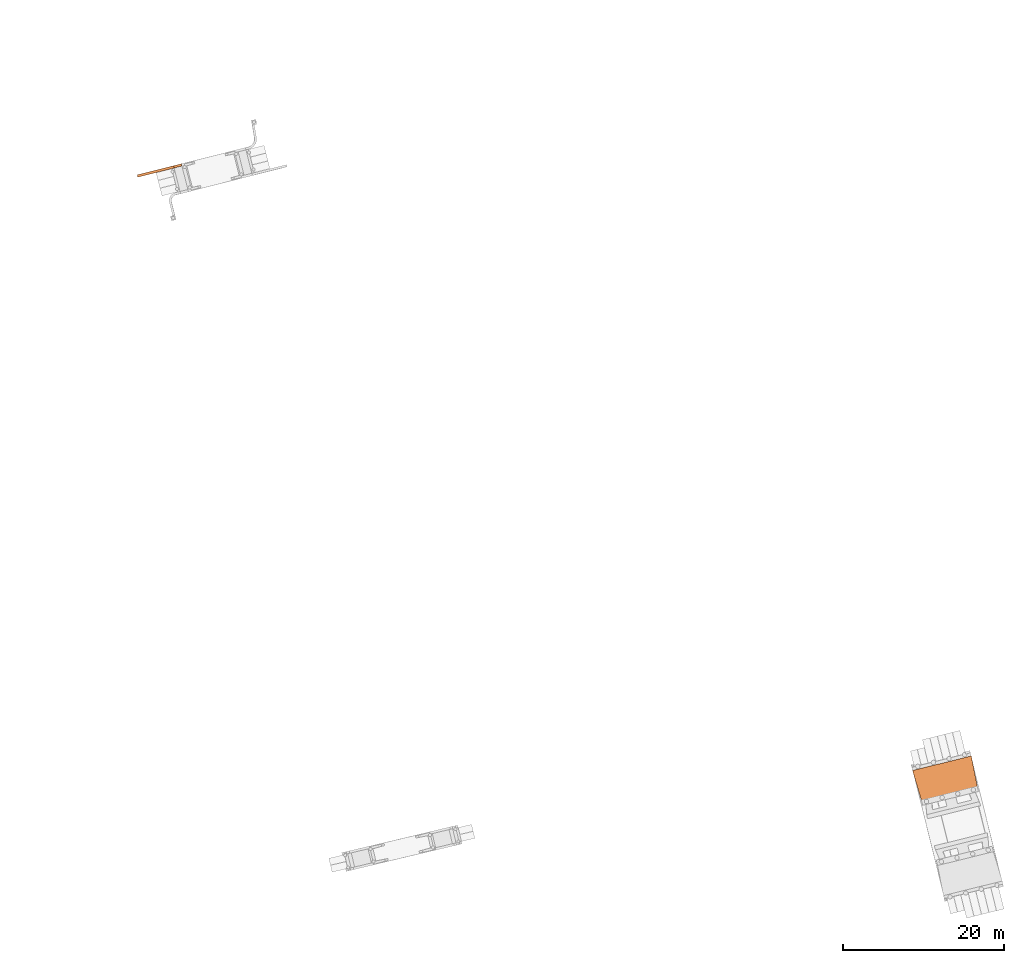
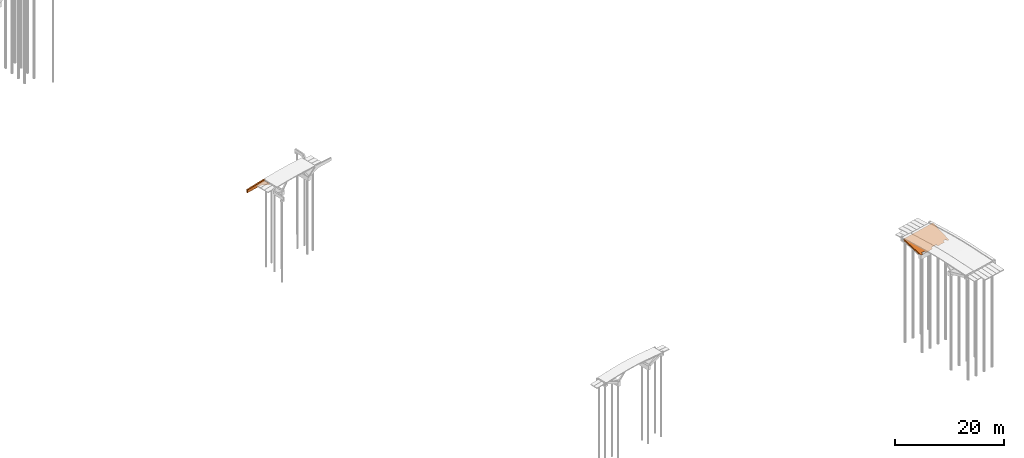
# One storey, part 12 of 15: 2 proxies.
"""IFC2X3 building model written with IfcOpenShell, lengths in millimetres."""

from ifc_helpers import new_model, entity, si_unit, converted_unit, derived_unit, direction, frame, origin, place, context, subcontext, project, spatial, faceted_brep, source, transform, mapped, material, type_object, type_shapes, element, save


model = new_model("IFC2X3")

# Units and contexts
model_context = context("Model", 3, precision=0.01, world=origin(), true_north=direction((6.12303176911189e-17, 1.0)))
body_context = subcontext(model_context, "Body", "Model", "MODEL_VIEW")
ifc_project = project(units=[si_unit("LENGTHUNIT", "METRE", prefix="MILLI"), si_unit("AREAUNIT", "SQUARE_METRE"), si_unit("VOLUMEUNIT", "CUBIC_METRE"), converted_unit("PLANEANGLEUNIT", "DEGREE", entity("IfcRatioMeasure", 0.0174532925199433), si_unit("PLANEANGLEUNIT", "RADIAN"), dimensions=[0, 0, 0, 0, 0, 0, 0]), si_unit("MASSUNIT", "GRAM", prefix="KILO"), derived_unit("MASSDENSITYUNIT", [(si_unit("MASSUNIT", "GRAM", prefix="KILO"), 1), (si_unit("LENGTHUNIT", "METRE"), -3)]), si_unit("TIMEUNIT", "SECOND"), si_unit("FREQUENCYUNIT", "HERTZ"), si_unit("THERMODYNAMICTEMPERATUREUNIT", "DEGREE_CELSIUS"), derived_unit("THERMALTRANSMITTANCEUNIT", [(si_unit("MASSUNIT", "GRAM", prefix="KILO"), 1), (si_unit("THERMODYNAMICTEMPERATUREUNIT", "KELVIN"), -1), (si_unit("TIMEUNIT", "SECOND"), -3)]), derived_unit("VOLUMETRICFLOWRATEUNIT", [(si_unit("LENGTHUNIT", "METRE"), 3), (si_unit("TIMEUNIT", "SECOND"), -1)]), si_unit("ELECTRICCURRENTUNIT", "AMPERE"), si_unit("ELECTRICVOLTAGEUNIT", "VOLT"), si_unit("POWERUNIT", "WATT"), si_unit("FORCEUNIT", "NEWTON", prefix="KILO"), si_unit("ILLUMINANCEUNIT", "LUX"), si_unit("LUMINOUSFLUXUNIT", "LUMEN"), si_unit("LUMINOUSINTENSITYUNIT", "CANDELA"), derived_unit("USERDEFINED", [(si_unit("MASSUNIT", "GRAM", prefix="KILO"), -1), (si_unit("LENGTHUNIT", "METRE"), -2), (si_unit("TIMEUNIT", "SECOND"), 3), (si_unit("LUMINOUSFLUXUNIT", "LUMEN"), 1)]), derived_unit("LINEARVELOCITYUNIT", [(si_unit("LENGTHUNIT", "METRE"), 1), (si_unit("TIMEUNIT", "SECOND"), -1)]), si_unit("PRESSUREUNIT", "PASCAL"), derived_unit("USERDEFINED", [(si_unit("LENGTHUNIT", "METRE"), -2), (si_unit("MASSUNIT", "GRAM", prefix="KILO"), 1), (si_unit("TIMEUNIT", "SECOND"), -2)])], contexts=[model_context])

# Site, building, storey
site_placement = place(None, origin())
site = spatial("IfcSite", under=ifc_project, at=site_placement, Name="Bruggen Achterburggracht Machinesloot", CompositionType="ELEMENT")
building_placement = place(site_placement, origin())
building = spatial("IfcBuilding", under=site, at=building_placement, Name="Bruggen Achterburggracht Machinesloot", CompositionType="ELEMENT")
storey_placement = place(building_placement, origin())
storey = spatial("IfcBuildingStorey", under=building, at=storey_placement, Name="00 begane grond", CompositionType="ELEMENT", Elevation=2.70716782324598e-13)

# Proxies
ifc_material = material(Name="00_PBT_MAT_beton t.p.g.")
building_element_proxy_type_1 = type_object("IfcBuildingElementProxyType", Name="brug 2 vleugelwand", PredefinedType="NOTDEFINED", material=ifc_material)
shared_shape_1 = source(origin(), body_context, "Body", "Brep", [
    faceted_brep([(1694.13780230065, 718.587365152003, 1602.25718284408), (1927.62004194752, 777.591898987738, 1614.87815687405), (2161.10228159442, 836.596432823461, 1627.49913090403), (2374.91238712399, 890.629517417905, 1639.05672000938), (2588.72249265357, 944.662602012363, 1650.6143091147), (2894.69491844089, 1021.98651486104, 1667.15376858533), (3272.23413391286, 1117.39645031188, 1687.56179893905), (3649.77334938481, 1212.80638576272, 1707.96982929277), (3863.58472928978, 1266.83979241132, 1719.52748728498), (4077.39431582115, 1320.87274584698, 1731.08504833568), (4291.20390235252, 1374.90569928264, 1742.64260938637), (4505.01528225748, 1428.93910593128, 1754.20026737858), (4505.01528225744, 1428.93910593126, 1559.39160794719), (4446.49401645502, 1414.14988678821, 1611.86269121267), (4287.47844277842, 1373.96421865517, 1423.18529615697), (5474.53519830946, 1673.95162070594, 358.851621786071), (5474.53519830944, 1673.95162070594, 0.0), (3543.98344100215, 1186.07165751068, 928.532827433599), (1.5952722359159, 290.855974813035, 928.532827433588), (1.5952722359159, 290.855974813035, 1510.76613260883), (215.406105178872, 344.889243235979, 1522.32376103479), (429.215853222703, 398.9222374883, 1533.8813308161), (693.764163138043, 465.77764253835, 1548.18159345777), (958.312473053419, 532.633047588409, 1562.48185609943), (1326.22513767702, 625.610206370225, 1582.36951947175), (1.5952722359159, 290.85597481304, 1550.82102644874), (1.5952722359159, 290.855974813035, 1561.28282743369), (4214.15930747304, 1355.43535150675, 1778.53282743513), (4360.98219721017, 1083.10824384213, 1423.18529615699), (4519.99777088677, 1123.29391197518, 1611.86269121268), (4578.51903668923, 1138.08313111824, 1559.39160794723), (4578.51903668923, 1138.08313111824, 1778.5328274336), (4287.66306187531, 1064.57937668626, 1778.53282743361), (75.0990266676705, 0.0, 1561.28282743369), (75.0990266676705, 0.0, 928.532827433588), (3617.4871954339, 895.215682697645, 928.532827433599), (5548.03895274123, 1383.09564589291, 0.0), (5548.03895274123, 1383.09564589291, 358.85162178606), (4578.51903668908, 1138.0831311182, 1228.13835961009), (1.8409912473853, 289.883659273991, 1519.6791849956), (11.3957728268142, 252.075178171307, 1550.82102644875), (9.21495628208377, 260.704717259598, 1549.81676663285), (7.14349498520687, 268.901535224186, 1546.85434496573), (5.28526065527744, 276.254609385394, 1542.08230963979), (3.7334329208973, 282.395225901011, 1535.73995043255), (2.56582690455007, 287.015468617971, 1528.14529971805), (4505.24645356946, 1428.02435595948, 1762.84869584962), (4505.92906190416, 1425.32325974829, 1771.08913117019), (4507.0309049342, 1420.96324261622, 1778.5328274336), (4450.08929076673, 1403.85115972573, 1778.5328274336), (4398.49868839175, 1387.7790478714, 1778.5328274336), (4352.79527810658, 1372.91394425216, 1778.53282743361), (4313.45405471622, 1359.41034164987, 1778.53282743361), (4280.88389092, 1347.40858278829, 1778.53282743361), (4255.42328790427, 1337.03340175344, 1778.53282743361), (4237.33685730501, 1328.39262763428, 1778.53282743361), (4226.81257110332, 1321.57606385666, 1778.53282743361), (4223.95980803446, 1316.65455485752, 1778.53282743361), (4010.14939712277, 1262.62139308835, 1766.97522182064), (3796.33917196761, 1208.58827826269, 1755.41762624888), (3582.52894681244, 1154.55516343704, 1743.86003067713), (3368.71872165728, 1100.52204861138, 1732.30243510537), (2982.60604241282, 1002.94546770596, 1711.43096280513), (2810.30358832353, 959.402001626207, 1702.11708607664), (2596.49336316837, 905.368886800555, 1690.55949050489), (2382.68309912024, 851.335762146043, 1679.00189283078), (2168.8726403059, 797.302588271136, 1667.44428462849), (1955.06237625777, 743.269463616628, 1655.88668695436), (1741.25211220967, 689.236338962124, 1644.32908928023), (1353.66772788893, 591.287835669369, 1623.37806338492), (1179.89360761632, 547.372457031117, 1613.98463516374), (966.083343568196, 493.339332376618, 1602.42703748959), (702.549716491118, 426.740353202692, 1588.18162392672), (439.016248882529, 360.141414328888, 1573.93621898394), (225.206010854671, 306.1082962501, 1562.37862271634), (2819.74127790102, 977.575624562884, 1699.78098099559), (2591.86503174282, 924.82800317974, 1685.20785095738), (2594.02596493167, 915.423572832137, 1689.19839145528), (3957.90271655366, 1283.12260649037, 1747.6297141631), (3805.27317058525, 1249.82098779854, 1729.48446693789), (3661.17770578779, 1206.93273719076, 1733.1459863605), (3968.02728548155, 1264.03308040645, 1763.10466396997), (3579.80704546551, 1165.68359183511, 1742.18669141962), (2894.60140852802, 988.668409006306, 1706.0229384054), (3146.53934509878, 1051.41168942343, 1719.79574955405), (3481.24959270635, 1147.60586588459, 1734.30095165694), (3330.38538573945, 1103.99040536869, 1728.30831612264), (3089.55535767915, 1045.76177025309, 1714.36588687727), (2903.73086441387, 1008.12849839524, 1699.21262756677), (1273.71061058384, 596.197443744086, 1611.1012434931), (1189.90267617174, 565.690476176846, 1611.67941619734), (1460.19734777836, 633.998074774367, 1626.29030065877), (4236.37172013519, 1354.15325828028, 1761.75942259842), (3720.99434058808, 1207.9813248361, 1747.36111691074), (4153.13979944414, 1337.82875689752, 1748.01663805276), (3938.08831359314, 1266.08439989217, 1757.38592068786), (2589.02069572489, 939.210501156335, 1670.58689980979), (2590.1578276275, 932.941281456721, 1678.85981775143), (2832.42737398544, 997.724822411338, 1688.06227125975), (3288.61046380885, 1103.10070039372, 1721.57826861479), (3574.57778576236, 1177.46291519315, 1735.62018492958), (3374.64714739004, 1132.27207724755, 1720.19242002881), (3460.94846869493, 1162.16293680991, 1712.53714289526), (3184.540902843, 1093.18203482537, 1695.27305452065), (3315.33971158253, 1122.33925503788, 1710.53823312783), (2777.01052899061, 991.690845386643, 1667.33317474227), (3891.37286429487, 1260.9404734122, 1749.97737080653), (3115.88684940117, 1069.35936831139, 1703.3847843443), (2912.6955549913, 1023.39500840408, 1683.4148179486), (1360.9715321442, 631.250609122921, 1599.53576734), (1133.12799668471, 573.671062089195, 1587.21959569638), (1217.90779126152, 589.711024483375, 1600.78878204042), (2588.53112969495, 943.208425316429, 1660.95288281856), (4123.4902434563, 1319.53047299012, 1762.58738529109), (2992.29654902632, 1045.88531879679, 1680.10550281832), (3366.95804156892, 1140.59860130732, 1700.20487053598), (963.61594533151, 503.3940184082, 1601.06593844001), (3603.38113554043, 1200.18731627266, 1713.74859173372), (961.455012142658, 512.798448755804, 1597.07539794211), (2033.97657436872, 770.572451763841, 1659.60440665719), (2273.95647706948, 831.681664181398, 1672.49847604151), (2065.46175617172, 786.957650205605, 1659.0081056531), (958.610676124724, 527.180946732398, 1582.45444679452), (959.747808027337, 520.911727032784, 1590.72736473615), (1264.92825630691, 576.820799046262, 1617.93107801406), (958.121110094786, 531.178870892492, 1572.82042980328), (1516.38773129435, 639.460444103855, 1631.67524373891), (1767.27411142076, 705.29011343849, 1644.78623346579), (2349.41092303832, 858.715948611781, 1674.35708922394), (2296.3198021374, 854.626430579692, 1666.37878440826), (2377.79379914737, 881.915672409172, 1664.59260019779), (2143.95319402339, 823.736864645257, 1650.84652948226), (1184.24264952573, 589.073596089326, 1581.79768659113), (1446.3899779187, 647.987359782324, 1612.45357263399), (1550.53821259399, 665.278199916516, 1626.69013748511), (1927.41435807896, 776.487103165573, 1623.84449586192), (2303.30503467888, 867.711641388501, 1653.91462832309), (2267.82147353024, 862.059179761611, 1643.97479234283), (1973.45359613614, 773.567669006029, 1648.52801388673), (1752.19387393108, 719.30633339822, 1635.24411508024), (1762.24678333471, 713.040468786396, 1641.44968010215), (1627.72512361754, 700.366963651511, 1609.1277195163), (2069.37122130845, 809.781332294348, 1638.92964535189), (1675.05631536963, 705.239450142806, 1625.50012475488), (1809.51015280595, 743.734914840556, 1625.66533636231), (1580.99170571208, 685.588838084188, 1614.09258899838), (1413.5551009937, 646.935177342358, 1594.6563624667), (1909.42451824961, 764.933908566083, 1637.57372777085), (293.349659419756, 336.961703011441, 1563.98742872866), (289.649186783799, 351.577119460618, 1554.49575420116), (224.611042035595, 327.91487116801, 1556.48492684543), (476.395481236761, 391.552259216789, 1570.09068676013), (627.246362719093, 419.501261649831, 1582.59181290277), (751.947429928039, 457.361490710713, 1587.00652605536), (287.412847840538, 360.777176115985, 1539.39919859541), (729.024295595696, 458.546879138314, 1581.65801115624), (717.27406612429, 462.755918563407, 1574.26475447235), (221.676204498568, 340.156616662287, 1543.88185743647), (473.586790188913, 403.825883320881, 1557.48731334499), (621.23430065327, 445.748986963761, 1555.61617957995), (527.56705382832, 411.236084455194, 1567.79658892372), (673.060569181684, 455.900975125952, 1565.46617595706)], [[[0, 1, 2, 3, 4, 5, 6, 7, 8, 9, 10, 11, 12, 13, 14, 15, 16, 17, 18, 19, 20, 21, 22, 23, 24]], [[25, 26, 27]], [[28, 29, 30, 31, 32, 33, 34, 35, 36, 37, 38]], [[39, 19, 18, 34, 33, 26, 25, 40, 41, 42, 43, 44, 45]], [[30, 12, 11, 46, 47, 48, 31]], [[17, 16, 36, 35]], [[18, 17, 35, 34]], [[32, 31, 48, 49, 50, 51, 52, 53, 54, 55, 56, 57]], [[25, 27, 57, 58, 59, 60, 61, 62, 63, 64, 65, 66, 67, 68, 69, 70, 71, 72, 73, 74, 40]], [[75, 76, 77]], [[78, 79, 80]], [[81, 82, 59]], [[83, 62, 84]], [[82, 85, 86]], [[75, 87, 88]], [[89, 90, 91]], [[48, 47, 92]], [[82, 81, 93]], [[94, 79, 78]], [[53, 52, 95]], [[81, 58, 56]], [[96, 97, 98]], [[95, 81, 53]], [[48, 92, 49]], [[58, 81, 59]], [[99, 85, 100]], [[100, 101, 99]], [[55, 54, 81]], [[94, 47, 46]], [[102, 103, 104]], [[105, 5, 4]], [[46, 11, 10]], [[106, 80, 100]], [[107, 108, 98]], [[109, 110, 111]], [[94, 9, 79]], [[112, 96, 108]], [[54, 53, 81]], [[92, 78, 113]], [[113, 49, 92]], [[46, 10, 94]], [[113, 95, 52]], [[51, 50, 113]], [[95, 113, 106]], [[51, 113, 52]], [[50, 49, 113]], [[60, 59, 82, 61]], [[58, 57, 56]], [[83, 63, 62]], [[88, 97, 76]], [[56, 55, 81]], [[105, 114, 5]], [[104, 103, 107]], [[103, 102, 115]], [[114, 103, 6]], [[101, 100, 80]], [[97, 88, 98]], [[64, 63, 77, 65]], [[71, 70, 116, 72]], [[107, 88, 99]], [[86, 84, 61]], [[93, 85, 82]], [[92, 94, 78]], [[94, 10, 9]], [[94, 92, 47]], [[96, 98, 108]], [[107, 98, 88]], [[76, 75, 88]], [[75, 77, 83]], [[102, 117, 115]], [[117, 8, 7]], [[83, 84, 87]], [[63, 83, 77]], [[75, 83, 87]], [[87, 84, 86]], [[84, 62, 61]], [[99, 87, 86]], [[61, 82, 86]], [[87, 99, 88]], [[107, 99, 101]], [[101, 104, 107]], [[106, 113, 78]], [[101, 80, 104]], [[102, 80, 79]], [[86, 85, 99]], [[93, 106, 100]], [[85, 93, 100]], [[95, 93, 81]], [[108, 107, 103]], [[102, 104, 80]], [[108, 103, 114]], [[6, 103, 115]], [[93, 95, 106]], [[106, 78, 80]], [[112, 108, 105]], [[5, 114, 6]], [[114, 105, 108]], [[112, 105, 4]], [[115, 7, 6]], [[7, 115, 117]], [[79, 9, 8]], [[117, 102, 79]], [[79, 8, 117]], [[90, 118, 116]], [[119, 120, 121]], [[111, 122, 123]], [[124, 70, 69]], [[4, 3, 112]], [[125, 23, 22]], [[124, 69, 126]], [[126, 127, 91]], [[121, 120, 128]], [[129, 130, 131]], [[111, 123, 89]], [[122, 110, 125]], [[132, 110, 109]], [[133, 89, 134]], [[129, 76, 97]], [[1, 0, 135, 2]], [[24, 23, 132]], [[123, 118, 89]], [[136, 131, 130]], [[112, 3, 137]], [[138, 129, 131]], [[139, 134, 140]], [[96, 112, 136]], [[77, 76, 128]], [[0, 141, 135]], [[137, 2, 135]], [[140, 134, 91]], [[142, 131, 136]], [[137, 3, 2]], [[143, 144, 145]], [[76, 129, 128]], [[121, 129, 138]], [[144, 142, 135]], [[141, 0, 146]], [[141, 145, 144]], [[122, 111, 110]], [[133, 145, 109]], [[121, 138, 140]], [[147, 139, 138]], [[77, 120, 65]], [[121, 128, 129]], [[127, 119, 121]], [[134, 89, 91]], [[118, 90, 89]], [[90, 116, 124]], [[66, 65, 120]], [[119, 66, 120]], [[128, 120, 77]], [[67, 66, 119]], [[126, 68, 127]], [[124, 126, 91]], [[70, 124, 116]], [[90, 124, 91]], [[140, 91, 127]], [[126, 69, 68]], [[111, 89, 133]], [[143, 134, 139]], [[144, 135, 141]], [[68, 67, 127]], [[146, 132, 109]], [[137, 135, 142]], [[144, 143, 147]], [[137, 142, 136]], [[131, 142, 147]], [[137, 136, 112]], [[97, 96, 130]], [[136, 130, 96]], [[97, 130, 129]], [[140, 127, 121]], [[119, 127, 67]], [[144, 147, 142]], [[131, 147, 138]], [[143, 145, 133]], [[145, 141, 109]], [[143, 133, 134]], [[111, 133, 109]], [[125, 110, 132]], [[125, 132, 23]], [[146, 24, 132]], [[24, 146, 0]], [[141, 146, 109]], [[143, 139, 147]], [[138, 139, 140]], [[42, 41, 148]], [[149, 44, 43]], [[150, 43, 42]], [[150, 42, 148]], [[151, 148, 152]], [[152, 116, 153]], [[41, 74, 148]], [[152, 72, 116]], [[154, 39, 45]], [[155, 118, 123]], [[155, 123, 156]], [[157, 45, 44]], [[158, 159, 154]], [[22, 159, 125]], [[155, 151, 153]], [[20, 39, 154]], [[154, 157, 158]], [[160, 156, 158]], [[155, 160, 151]], [[40, 74, 41]], [[44, 149, 157]], [[161, 158, 156]], [[20, 154, 21]], [[159, 21, 154]], [[149, 150, 151]], [[161, 122, 125]], [[152, 148, 73]], [[43, 150, 149]], [[151, 150, 148]], [[45, 157, 154]], [[158, 157, 149]], [[20, 19, 39]], [[148, 74, 73]], [[118, 155, 153]], [[160, 149, 151]], [[159, 158, 161]], [[156, 123, 122]], [[149, 160, 158]], [[160, 155, 156]], [[118, 153, 116]], [[152, 153, 151]], [[159, 161, 125]], [[161, 156, 122]], [[22, 21, 159]], [[152, 73, 72]], [[27, 26, 33, 32, 57]], [[16, 15, 37, 36]], [[29, 28, 14, 13]], [[13, 12, 30, 29]], [[38, 37, 15, 14, 28]]]),
])
type_shapes(building_element_proxy_type_1, [shared_shape_1])
proxy_1_placement = place(storey_placement, frame((-62129.5249016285, 37531.3987034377, -1518.5328274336)))
element("IfcBuildingElementProxy", 1, at=proxy_1_placement, inside=storey, type_object=building_element_proxy_type_1, material=ifc_material, Name="brug 2 vleugelwand1:brug 2 vleugelwand", ObjectType="brug 2 vleugelwand1:brug 2 vleugelwand", context=body_context, shape_type="MappedRepresentation", body=[
    mapped(shared_shape_1, transform((0.0, 0.0, 0.0), scale=1.0)),
])
building_element_proxy_type_2 = type_object("IfcBuildingElementProxyType", Name="brug 4 wand", PredefinedType="NOTDEFINED", material=ifc_material)
shared_shape_2 = source(origin(), body_context, "Body", "Brep", [
    faceted_brep([(8033.92210921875, 2330.99624964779, 315.370244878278), (7336.4563411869, 5900.09252515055, 1495.52679495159), (7280.54327021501, 6126.11804835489, 1571.18063864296), (0.0, 4325.09342595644, 1571.18063864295), (55.9130710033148, 4099.06790263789, 1495.52679491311), (1102.88315714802, 616.430269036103, 315.370244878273), (1255.36171986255, 0.0440409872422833, 109.057317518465), (1674.61926718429, 103.757890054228, 109.057317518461), (1601.08780657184, 484.739240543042, 234.960804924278), (2341.89055193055, 667.995343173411, 234.960804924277), (2415.42201254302, 287.013992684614, 109.057317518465), (4065.6634099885, 695.242510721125, 109.057317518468), (3972.61261067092, 1071.39526417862, 234.960804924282), (5283.07318708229, 1395.57049083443, 234.960804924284), (5376.12398639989, 1019.41773737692, 109.057317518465), (7026.3653720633, 1427.64625249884, 109.057317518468), (6913.79523404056, 1798.97040892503, 234.960804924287), (7654.61936169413, 1982.23180100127, 234.960804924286), (7767.18949971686, 1610.90764457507, 109.057317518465), (8186.41156656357, 1714.56598065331, 109.042576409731), (7312.71032665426, 5996.08448669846, 1191.18870973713), (8010.17609468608, 2426.98821119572, 11.0321596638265), (8018.32957237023, 2394.02822478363, 0.0), (1087.26768734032, 679.55494940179, 0.0310297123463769), (1079.13714261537, 712.422230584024, 11.0321596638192), (32.1670564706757, 4195.05986418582, 1191.18870969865), (1.2821146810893e-09, 4325.09342595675, 1234.7127268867), (7280.54327021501, 6126.11804835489, 1234.71272688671), (8186.4115665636, 1714.56598065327, 109.057317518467), (8018.32957237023, 2394.02822478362, 109.057317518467), (1255.37261450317, 0.0, 109.042576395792), (1087.26768734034, 679.55494940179, 109.057317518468), (1087.25090243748, 679.550797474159, 109.057317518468), (8186.40067193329, 1714.61002159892, 109.057317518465), (7619.01628616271, 2061.07496889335, 109.057317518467), (6878.19215850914, 1877.81357681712, 109.057317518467), (5262.64098342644, 1478.16655363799, 109.057317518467), (3952.18040701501, 1153.99132698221, 109.057317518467), (2336.62922015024, 754.344300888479, 109.057317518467), (1595.82647479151, 571.088198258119, 109.057317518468), (1255.37261450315, 0.0, 109.057317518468), (8018.35102815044, 2394.0335321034, 109.057317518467), (7613.76804133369, 2082.29071080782, 131.689087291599), (6872.94391368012, 1899.02931873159, 131.689087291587), (1590.5782299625, 592.3039401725, 131.689087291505), (2331.38097532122, 775.560042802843, 131.689087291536), (5257.39273859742, 1499.38229555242, 131.689087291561), (3946.93216218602, 1175.20706889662, 131.689087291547)], [[[0, 1, 2, 3, 4, 5, 6, 7, 8, 9, 10, 11, 12, 13, 14, 15, 16, 17, 18, 19]], [[20, 21, 22, 23, 24, 25, 26, 27]], [[0, 28, 29, 22, 21]], [[1, 0, 21, 20]], [[2, 1, 20, 27]], [[4, 3, 26, 25]], [[5, 4, 25, 24]], [[30, 5, 24, 23, 31]], [[3, 2, 27, 26]], [[32, 29, 33, 18, 34, 35, 15, 14, 36, 37, 11, 10, 38, 39, 7, 40]], [[41, 31, 23, 22]], [[42, 43, 35, 34]], [[44, 45, 9, 8]], [[42, 34, 18, 17]], [[35, 43, 16, 15]], [[46, 36, 14, 13]], [[39, 44, 8, 7]], [[37, 47, 12, 11]], [[45, 38, 10, 9]], [[46, 47, 37, 36]], [[45, 44, 39, 38]], [[47, 46, 13, 12]], [[43, 42, 17, 16]]]),
])
type_shapes(building_element_proxy_type_2, [shared_shape_2])
proxy_2_placement = place(storey_placement, frame((34134.8311901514, -40453.4235148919, -1459.05731751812)))
element("IfcBuildingElementProxy", 2, at=proxy_2_placement, inside=storey, type_object=building_element_proxy_type_2, material=ifc_material, Name="brug 4 wand1:brug 4 wand", ObjectType="brug 4 wand1:brug 4 wand", context=body_context, shape_type="MappedRepresentation", body=[
    mapped(shared_shape_2, transform((0.0, 0.0, 0.0), scale=1.0)),
])

save(model, "model.ifc")
